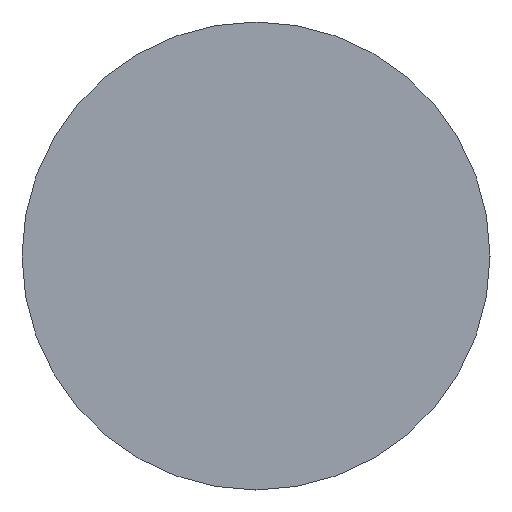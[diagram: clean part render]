
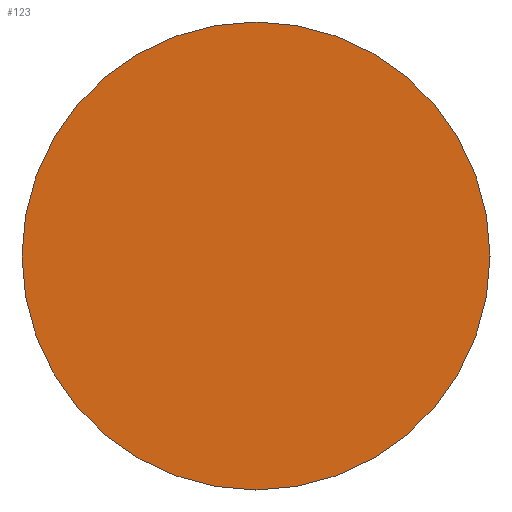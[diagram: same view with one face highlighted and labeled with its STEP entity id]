
A CAD part, left-side view. The second image highlights one B-rep face of the part: STEP entity #123.
In plain terms, the highlighted planar face has unit normal (-1, 0, 0).
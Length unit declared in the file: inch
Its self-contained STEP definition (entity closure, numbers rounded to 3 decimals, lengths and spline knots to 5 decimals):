
#51 = FACE_OUTER_BOUND ( 'NONE', #136, .T. ) ;
#84 = DIRECTION ( 'NONE',  ( 0., 0., 1. ) ) ;
#85 = DIRECTION ( 'NONE',  ( -1., 0., 0. ) ) ;
#87 = DIRECTION ( 'NONE',  ( 1., 0., 0. ) ) ;
#89 = AXIS2_PLACEMENT_3D ( 'NONE', #322, #211, #170 ) ;
#99 = EDGE_CURVE ( 'NONE', #340, #210, #505, .T. ) ;
#116 = CARTESIAN_POINT ( 'NONE',  ( -4., 0.25, 0. ) ) ;
#123 = ADVANCED_FACE ( 'NONE', ( #51 ), #452, .F. ) ;
#136 = EDGE_LOOP ( 'NONE', ( #428, #184 ) ) ;
#152 = AXIS2_PLACEMENT_3D ( 'NONE', #357, #85, #84 ) ;
#168 = CARTESIAN_POINT ( 'NONE',  ( -4., 0., -0.25 ) ) ;
#170 = DIRECTION ( 'NONE',  ( 0., 0., 1. ) ) ;
#184 = ORIENTED_EDGE ( 'NONE', *, *, #493, .T. ) ;
#210 = VERTEX_POINT ( 'NONE', #168 ) ;
#211 = DIRECTION ( 'NONE',  ( -1., 0., 0. ) ) ;
#322 = CARTESIAN_POINT ( 'NONE',  ( -4., 0., 0. ) ) ;
#340 = VERTEX_POINT ( 'NONE', #479 ) ;
#352 = AXIS2_PLACEMENT_3D ( 'NONE', #116, #87, #405 ) ;
#357 = CARTESIAN_POINT ( 'NONE',  ( -4., 0., 0. ) ) ;
#387 = CIRCLE ( 'NONE', #152, 0.25 ) ;
#405 = DIRECTION ( 'NONE',  ( 0., 0., -1. ) ) ;
#428 = ORIENTED_EDGE ( 'NONE', *, *, #99, .T. ) ;
#452 = PLANE ( 'NONE',  #352 ) ;
#479 = CARTESIAN_POINT ( 'NONE',  ( -4., 0., 0.25 ) ) ;
#493 = EDGE_CURVE ( 'NONE', #210, #340, #387, .T. ) ;
#505 = CIRCLE ( 'NONE', #89, 0.25 ) ;
